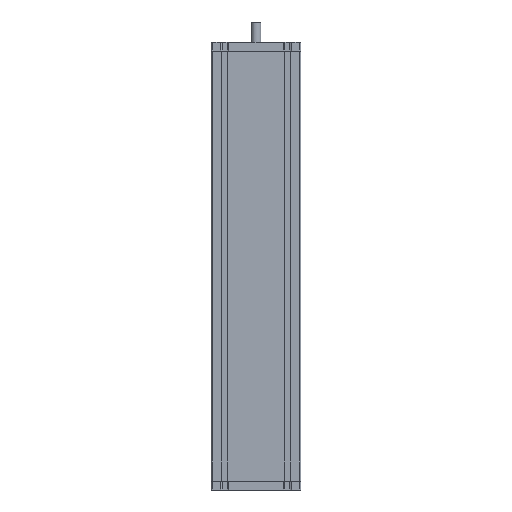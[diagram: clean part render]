
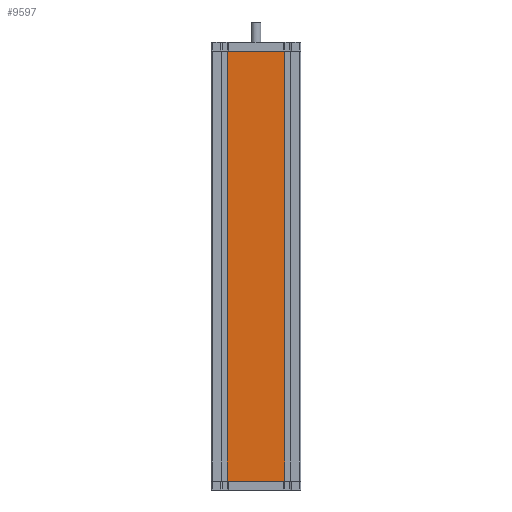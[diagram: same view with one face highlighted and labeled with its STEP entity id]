
A CAD part, front view. The second image highlights one B-rep face of the part: STEP entity #9597.
In plain terms, the highlighted planar face has unit normal (0, -1, 0).
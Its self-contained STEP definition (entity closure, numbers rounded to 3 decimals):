
#93 = VERTEX_POINT ( 'NONE', #8659 ) ;
#327 = ORIENTED_EDGE ( 'NONE', *, *, #5763, .T. ) ;
#885 = LINE ( 'NONE', #13730, #4327 ) ;
#1045 = LINE ( 'NONE', #2878, #12772 ) ;
#1335 = EDGE_CURVE ( 'NONE', #93, #8696, #7378, .T. ) ;
#1989 = FACE_OUTER_BOUND ( 'NONE', #6269, .T. ) ;
#2538 = ORIENTED_EDGE ( 'NONE', *, *, #10972, .F. ) ;
#2651 = VERTEX_POINT ( 'NONE', #11756 ) ;
#2878 = CARTESIAN_POINT ( 'NONE',  ( 480., -50., 64. ) ) ;
#3661 = CARTESIAN_POINT ( 'NONE',  ( 480., -50., 64. ) ) ;
#3724 = EDGE_CURVE ( 'NONE', #2651, #8696, #3805, .T. ) ;
#3805 = LINE ( 'NONE', #9488, #5396 ) ;
#4128 = CARTESIAN_POINT ( 'NONE',  ( 480., -50., -64. ) ) ;
#4239 = ORIENTED_EDGE ( 'NONE', *, *, #3724, .T. ) ;
#4327 = VECTOR ( 'NONE', #9664, 1000. ) ;
#5396 = VECTOR ( 'NONE', #12814, 1000. ) ;
#5763 = EDGE_CURVE ( 'NONE', #9325, #2651, #885, .T. ) ;
#6269 = EDGE_LOOP ( 'NONE', ( #4239, #10841, #2538, #327 ) ) ;
#6469 = CARTESIAN_POINT ( 'NONE',  ( -480., -50., -64. ) ) ;
#7378 = LINE ( 'NONE', #4128, #10389 ) ;
#8614 = DIRECTION ( 'NONE',  ( 0., 1., 0. ) ) ;
#8659 = CARTESIAN_POINT ( 'NONE',  ( 480., -50., -64. ) ) ;
#8696 = VERTEX_POINT ( 'NONE', #6469 ) ;
#8757 = DIRECTION ( 'NONE',  ( 0., 0., 1. ) ) ;
#9325 = VERTEX_POINT ( 'NONE', #3661 ) ;
#9488 = CARTESIAN_POINT ( 'NONE',  ( -480., -50., 64. ) ) ;
#9597 = ADVANCED_FACE ( 'NONE', ( #1989 ), #10883, .F. ) ;
#9664 = DIRECTION ( 'NONE',  ( -1., 0., 0. ) ) ;
#9796 = DIRECTION ( 'NONE',  ( -1., 0., 0. ) ) ;
#10389 = VECTOR ( 'NONE', #9796, 1000. ) ;
#10841 = ORIENTED_EDGE ( 'NONE', *, *, #1335, .F. ) ;
#10883 = PLANE ( 'NONE',  #13408 ) ;
#10972 = EDGE_CURVE ( 'NONE', #9325, #93, #1045, .T. ) ;
#11756 = CARTESIAN_POINT ( 'NONE',  ( -480., -50., 64. ) ) ;
#11895 = CARTESIAN_POINT ( 'NONE',  ( 480., -50., 64. ) ) ;
#11949 = DIRECTION ( 'NONE',  ( 0., 0., -1. ) ) ;
#12772 = VECTOR ( 'NONE', #11949, 1000. ) ;
#12814 = DIRECTION ( 'NONE',  ( 0., 0., -1. ) ) ;
#13408 = AXIS2_PLACEMENT_3D ( 'NONE', #11895, #8614, #8757 ) ;
#13730 = CARTESIAN_POINT ( 'NONE',  ( 480., -50., 64. ) ) ;
